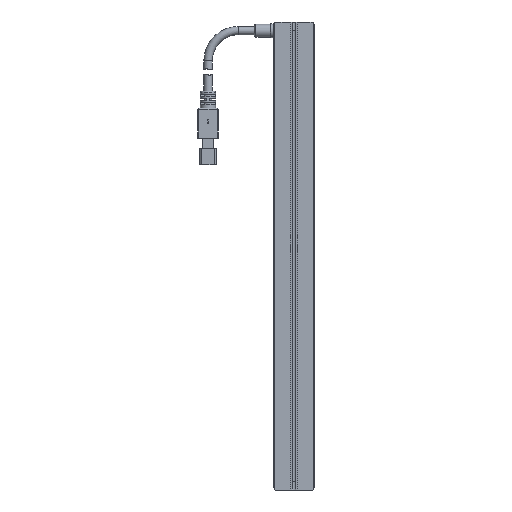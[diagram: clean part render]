
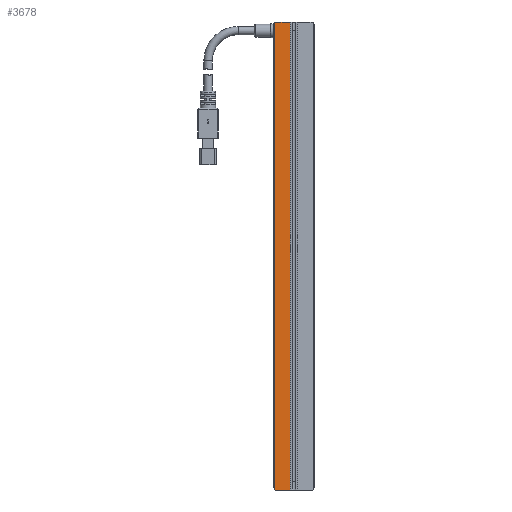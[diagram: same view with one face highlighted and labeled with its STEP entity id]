
A CAD part, front view. The second image highlights one B-rep face of the part: STEP entity #3678.
In plain terms, the highlighted planar face has unit normal (0, -1, 0).
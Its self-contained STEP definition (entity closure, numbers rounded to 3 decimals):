
#148 = EDGE_CURVE ( 'NONE', #1822, #2564, #7944, .T. ) ;
#516 = DIRECTION ( 'NONE',  ( 0., -1., 0. ) ) ;
#565 = VECTOR ( 'NONE', #10195, 1000. ) ;
#1326 = EDGE_CURVE ( 'NONE', #9856, #1822, #11297, .T. ) ;
#1822 = VERTEX_POINT ( 'NONE', #17407 ) ;
#2564 = VERTEX_POINT ( 'NONE', #9291 ) ;
#2788 = LINE ( 'NONE', #17996, #17565 ) ;
#3437 = EDGE_CURVE ( 'NONE', #10979, #8213, #3482, .T. ) ;
#3482 = LINE ( 'NONE', #12215, #16930 ) ;
#3557 = EDGE_CURVE ( 'NONE', #6041, #9856, #2788, .T. ) ;
#3619 = DIRECTION ( 'NONE',  ( 0., 0., -1. ) ) ;
#3678 = ADVANCED_FACE ( 'NONE', ( #5194 ), #11470, .T. ) ;
#4537 = VECTOR ( 'NONE', #3619, 1000. ) ;
#5194 = FACE_OUTER_BOUND ( 'NONE', #10780, .T. ) ;
#5604 = CARTESIAN_POINT ( 'NONE',  ( -9., 0., 116. ) ) ;
#6041 = VERTEX_POINT ( 'NONE', #16083 ) ;
#6161 = ORIENTED_EDGE ( 'NONE', *, *, #148, .T. ) ;
#6502 = CARTESIAN_POINT ( 'NONE',  ( -4.5, 0., 120.5 ) ) ;
#6976 = DIRECTION ( 'NONE',  ( -0.707, 0., -0.707 ) ) ;
#7128 = EDGE_CURVE ( 'NONE', #2564, #8213, #16551, .T. ) ;
#7944 = LINE ( 'NONE', #14303, #565 ) ;
#8180 = CARTESIAN_POINT ( 'NONE',  ( -120.5, 0., -4.5 ) ) ;
#8213 = VERTEX_POINT ( 'NONE', #11916 ) ;
#8695 = DIRECTION ( 'NONE',  ( 1., 0., 0. ) ) ;
#9291 = CARTESIAN_POINT ( 'NONE',  ( -9.5, 0., -115.5 ) ) ;
#9856 = VERTEX_POINT ( 'NONE', #5604 ) ;
#10195 = DIRECTION ( 'NONE',  ( 0., 0., -1. ) ) ;
#10281 = CARTESIAN_POINT ( 'NONE',  ( -1.75, 0., -116. ) ) ;
#10780 = EDGE_LOOP ( 'NONE', ( #14233, #13854, #6161, #14509, #14440, #16980 ) ) ;
#10979 = VERTEX_POINT ( 'NONE', #10281 ) ;
#11297 = LINE ( 'NONE', #6502, #17201 ) ;
#11470 = PLANE ( 'NONE',  #12478 ) ;
#11916 = CARTESIAN_POINT ( 'NONE',  ( -9., 0., -116. ) ) ;
#12215 = CARTESIAN_POINT ( 'NONE',  ( 0., 0., -116. ) ) ;
#12478 = AXIS2_PLACEMENT_3D ( 'NONE', #17143, #516, #8695 ) ;
#12933 = EDGE_CURVE ( 'NONE', #6041, #10979, #15586, .T. ) ;
#13854 = ORIENTED_EDGE ( 'NONE', *, *, #1326, .T. ) ;
#14233 = ORIENTED_EDGE ( 'NONE', *, *, #3557, .T. ) ;
#14303 = CARTESIAN_POINT ( 'NONE',  ( -9.5, 0., 116. ) ) ;
#14440 = ORIENTED_EDGE ( 'NONE', *, *, #3437, .F. ) ;
#14509 = ORIENTED_EDGE ( 'NONE', *, *, #7128, .T. ) ;
#14704 = CARTESIAN_POINT ( 'NONE',  ( -1.75, 0., 116. ) ) ;
#15223 = VECTOR ( 'NONE', #15272, 1000. ) ;
#15272 = DIRECTION ( 'NONE',  ( 0.707, 0., -0.707 ) ) ;
#15428 = DIRECTION ( 'NONE',  ( -1., 0., 0. ) ) ;
#15586 = LINE ( 'NONE', #14704, #4537 ) ;
#16083 = CARTESIAN_POINT ( 'NONE',  ( -1.75, 0., 116. ) ) ;
#16436 = DIRECTION ( 'NONE',  ( -1., 0., 0. ) ) ;
#16551 = LINE ( 'NONE', #8180, #15223 ) ;
#16930 = VECTOR ( 'NONE', #16436, 1000. ) ;
#16980 = ORIENTED_EDGE ( 'NONE', *, *, #12933, .F. ) ;
#17143 = CARTESIAN_POINT ( 'NONE',  ( 0., 0., 116. ) ) ;
#17201 = VECTOR ( 'NONE', #6976, 1000. ) ;
#17407 = CARTESIAN_POINT ( 'NONE',  ( -9.5, 0., 115.5 ) ) ;
#17565 = VECTOR ( 'NONE', #15428, 1000. ) ;
#17996 = CARTESIAN_POINT ( 'NONE',  ( 0., 0., 116. ) ) ;
